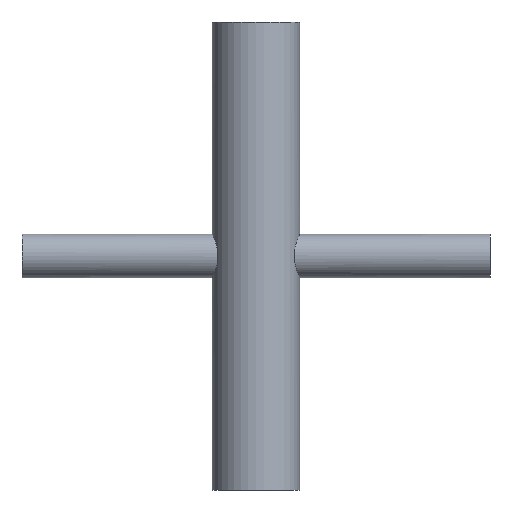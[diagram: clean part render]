
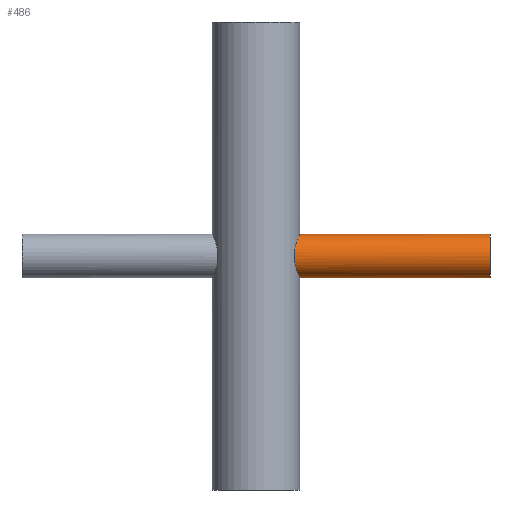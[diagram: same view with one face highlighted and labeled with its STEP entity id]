
A CAD part, front view. The second image highlights one B-rep face of the part: STEP entity #486.
In plain terms, the highlighted cylindrical face has radius 4.763 mm (diameter 9.525 mm), a partial arc.
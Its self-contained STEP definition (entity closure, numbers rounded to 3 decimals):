
#5 = EDGE_CURVE ( 'NONE', #371, #609, #372, .T. ) ;
#11 = EDGE_CURVE ( 'NONE', #371, #689, #169, .T. ) ;
#23 = CARTESIAN_POINT ( 'NONE',  ( 50.8, 0., -4.763 ) ) ;
#45 = CARTESIAN_POINT ( 'NONE',  ( 9.288, -2.133, 4.27 ) ) ;
#52 = CARTESIAN_POINT ( 'NONE',  ( 9.07, -2.92, 3.775 ) ) ;
#58 = CARTESIAN_POINT ( 'NONE',  ( 9.525, -0.32, 4.763 ) ) ;
#62 = CARTESIAN_POINT ( 'NONE',  ( 9.509, -0.634, -4.731 ) ) ;
#96 = CARTESIAN_POINT ( 'NONE',  ( -50.8, 0., 4.763 ) ) ;
#114 = CARTESIAN_POINT ( 'NONE',  ( 9.402, -1.556, -4.512 ) ) ;
#115 = CARTESIAN_POINT ( 'NONE',  ( 9.288, -2.131, -4.271 ) ) ;
#119 = DIRECTION ( 'NONE',  ( 1., 0., 0. ) ) ;
#164 = CARTESIAN_POINT ( 'NONE',  ( 50.8, 0., 0. ) ) ;
#169 = LINE ( 'NONE', #304, #782 ) ;
#173 = CARTESIAN_POINT ( 'NONE',  ( 8.393, -4.504, -1.555 ) ) ;
#178 = ORIENTED_EDGE ( 'NONE', *, *, #5, .F. ) ;
#183 = CARTESIAN_POINT ( 'NONE',  ( 8.421, -4.451, -1.701 ) ) ;
#186 = CARTESIAN_POINT ( 'NONE',  ( 8.515, -4.272, -2.129 ) ) ;
#200 = DIRECTION ( 'NONE',  ( 1., 0., 0. ) ) ;
#228 = DIRECTION ( 'NONE',  ( 0., 0., -1. ) ) ;
#236 = CARTESIAN_POINT ( 'NONE',  ( 8.587, -4.126, -2.399 ) ) ;
#238 = CARTESIAN_POINT ( 'NONE',  ( 9.22, -2.405, 4.122 ) ) ;
#240 = CARTESIAN_POINT ( 'NONE',  ( 8.586, -4.128, 2.396 ) ) ;
#242 = CARTESIAN_POINT ( 'NONE',  ( 8.744, -3.782, -2.911 ) ) ;
#245 = CARTESIAN_POINT ( 'NONE',  ( 8.827, -3.586, -3.149 ) ) ;
#269 = EDGE_CURVE ( 'NONE', #689, #601, #418, .T. ) ;
#285 = DIRECTION ( 'NONE',  ( 1., 0., 0. ) ) ;
#299 = CARTESIAN_POINT ( 'NONE',  ( 8.253, -4.755, 0.31 ) ) ;
#304 = CARTESIAN_POINT ( 'NONE',  ( -50.8, 0., -4.763 ) ) ;
#307 = CARTESIAN_POINT ( 'NONE',  ( 8.99, -3.154, -3.581 ) ) ;
#310 = CARTESIAN_POINT ( 'NONE',  ( 9.072, -2.916, -3.778 ) ) ;
#312 = AXIS2_PLACEMENT_3D ( 'NONE', #326, #200, #453 ) ;
#315 = CARTESIAN_POINT ( 'NONE',  ( 9.525, 0., -4.763 ) ) ;
#317 = ORIENTED_EDGE ( 'NONE', *, *, #269, .T. ) ;
#326 = CARTESIAN_POINT ( 'NONE',  ( -50.8, 0., 0. ) ) ;
#340 = FACE_OUTER_BOUND ( 'NONE', #543, .T. ) ;
#360 = CARTESIAN_POINT ( 'NONE',  ( 9.447, -1.26, 4.604 ) ) ;
#362 = CARTESIAN_POINT ( 'NONE',  ( 8.99, -3.156, 3.58 ) ) ;
#366 = CARTESIAN_POINT ( 'NONE',  ( 9.525, 0., 4.763 ) ) ;
#368 = CARTESIAN_POINT ( 'NONE',  ( 9.221, -2.402, -4.124 ) ) ;
#370 = CARTESIAN_POINT ( 'NONE',  ( 8.743, -3.785, 2.907 ) ) ;
#371 = VERTEX_POINT ( 'NONE', #315 ) ;
#372 = B_SPLINE_CURVE_WITH_KNOTS ( 'NONE', 3,
 ( #610, #731, #62, #792, #114, #115, #368, #310, #307, #245, #242, #236, #186, #183, #173, #786, #550, #734, #780, #547, #299, #723, #727, #720, #666, #373, #240, #370, #544, #362, #52, #238, #45, #438, #360, #612, #58, #366 ),
 .UNSPECIFIED., .F., .F.,
 ( 4, 2, 2, 2, 2, 2, 2, 2, 2, 2, 2, 2, 2, 2, 2, 2, 2, 2, 4 ),
 ( 0.015, 0.016, 0.017, 0.018, 0.019, 0.02, 0.021, 0.021, 0.022, 0.023, 0.023, 0.024, 0.025, 0.026, 0.026, 0.027, 0.028, 0.029, 0.03 ),
 .UNSPECIFIED. ) ;
#373 = CARTESIAN_POINT ( 'NONE',  ( 8.513, -4.274, 2.124 ) ) ;
#418 = CIRCLE ( 'NONE', #591, 4.763 ) ;
#438 = CARTESIAN_POINT ( 'NONE',  ( 9.401, -1.561, 4.51 ) ) ;
#445 = CYLINDRICAL_SURFACE ( 'NONE', #312, 4.763 ) ;
#448 = CARTESIAN_POINT ( 'NONE',  ( 50.8, 0., 4.763 ) ) ;
#453 = DIRECTION ( 'NONE',  ( 0., 0., -1. ) ) ;
#459 = CARTESIAN_POINT ( 'NONE',  ( 9.525, 0., 4.763 ) ) ;
#486 = ADVANCED_FACE ( 'NONE', ( #340 ), #445, .T. ) ;
#543 = EDGE_LOOP ( 'NONE', ( #789, #178, #707, #317 ) ) ;
#544 = CARTESIAN_POINT ( 'NONE',  ( 8.827, -3.588, 3.147 ) ) ;
#547 = CARTESIAN_POINT ( 'NONE',  ( 8.249, -4.763, 0.15 ) ) ;
#550 = CARTESIAN_POINT ( 'NONE',  ( 8.321, -4.636, -1.1 ) ) ;
#591 = AXIS2_PLACEMENT_3D ( 'NONE', #164, #599, #228 ) ;
#599 = DIRECTION ( 'NONE',  ( -1., 0., 0. ) ) ;
#601 = VERTEX_POINT ( 'NONE', #448 ) ;
#609 = VERTEX_POINT ( 'NONE', #459 ) ;
#610 = CARTESIAN_POINT ( 'NONE',  ( 9.525, 0., -4.763 ) ) ;
#612 = CARTESIAN_POINT ( 'NONE',  ( 9.509, -0.637, 4.73 ) ) ;
#635 = VECTOR ( 'NONE', #285, 1000. ) ;
#648 = LINE ( 'NONE', #96, #635 ) ;
#666 = CARTESIAN_POINT ( 'NONE',  ( 8.388, -4.515, 1.548 ) ) ;
#689 = VERTEX_POINT ( 'NONE', #23 ) ;
#707 = ORIENTED_EDGE ( 'NONE', *, *, #11, .T. ) ;
#720 = CARTESIAN_POINT ( 'NONE',  ( 8.337, -4.607, 1.245 ) ) ;
#723 = CARTESIAN_POINT ( 'NONE',  ( 8.271, -4.724, 0.627 ) ) ;
#726 = EDGE_CURVE ( 'NONE', #609, #601, #648, .T. ) ;
#727 = CARTESIAN_POINT ( 'NONE',  ( 8.285, -4.7, 0.783 ) ) ;
#731 = CARTESIAN_POINT ( 'NONE',  ( 9.525, -0.32, -4.762 ) ) ;
#734 = CARTESIAN_POINT ( 'NONE',  ( 8.268, -4.73, -0.638 ) ) ;
#780 = CARTESIAN_POINT ( 'NONE',  ( 8.249, -4.762, -0.325 ) ) ;
#782 = VECTOR ( 'NONE', #119, 1000. ) ;
#786 = CARTESIAN_POINT ( 'NONE',  ( 8.342, -4.597, -1.254 ) ) ;
#789 = ORIENTED_EDGE ( 'NONE', *, *, #726, .F. ) ;
#792 = CARTESIAN_POINT ( 'NONE',  ( 9.448, -1.251, -4.606 ) ) ;
